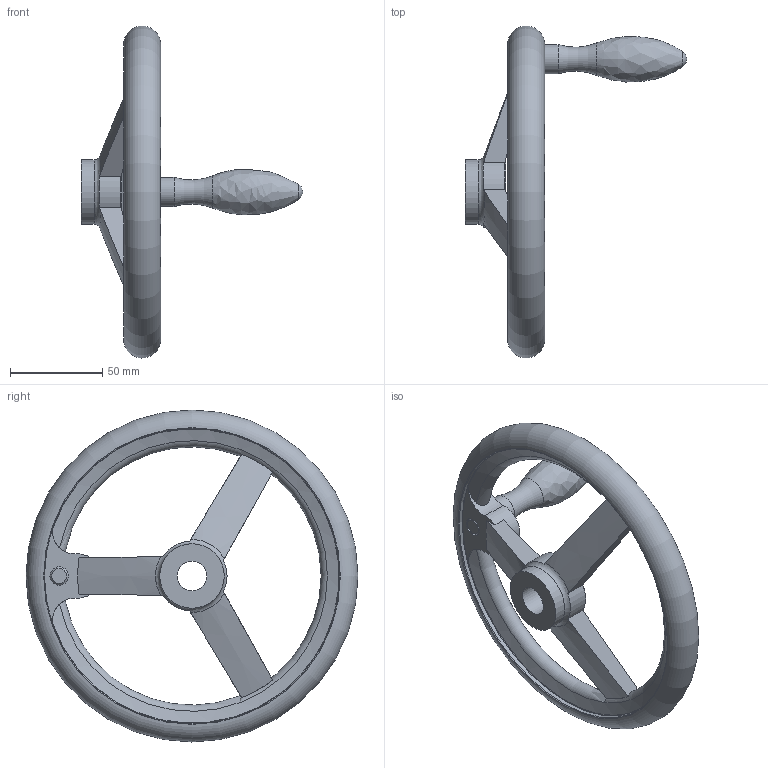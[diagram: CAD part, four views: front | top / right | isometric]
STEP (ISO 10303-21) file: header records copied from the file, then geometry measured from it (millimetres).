
FILE_DESCRIPTION( ( 'STEP AP203' ), '1' );
FILE_NAME( 'C:/Temp/Ganter_Step_05_03_2020/data/1_3/din_950/din_950_b/din_950_b_f/Handwheel DIN 950-AL-180-B16-F.stp', '2020-03-05T10:30:13', ( 'License CC BY-ND 4.0' ), ( 'CADENAS' ), ' ', 'PARTsolutions', ' ' );
FILE_SCHEMA( ( 'CONFIG_CONTROL_DESIGN' ) );
Length unit declared in the file: millimetre
Products named in the file (1): _Handwheel DIN 950-AL-180-B16-F
Bounding box: 120 x 179.98 x 179.98 mm (x, y, z)
Volume: 207258.4 mm3; surface area: 51223.9 mm2
Topology: 1 solids, 1 shells, 46 faces, 129 edges, 82 vertices
Faces by surface type: cylinder 13, torus 13, plane 11, cone 7, bspline 1, sphere 1
Full cylindrical faces by diameter (mm): 10 x1, 15.8 x1, 16 x1, 35 x2, 160 x2
Entity records: 1765 total; most frequent: CARTESIAN_POINT 673, ORIENTED_EDGE 208, DIRECTION 206, EDGE_CURVE 104, AXIS2_PLACEMENT_3D 97, VERTEX_POINT 78, EDGE_LOOP 70, FACE_OUTER_BOUND 62
